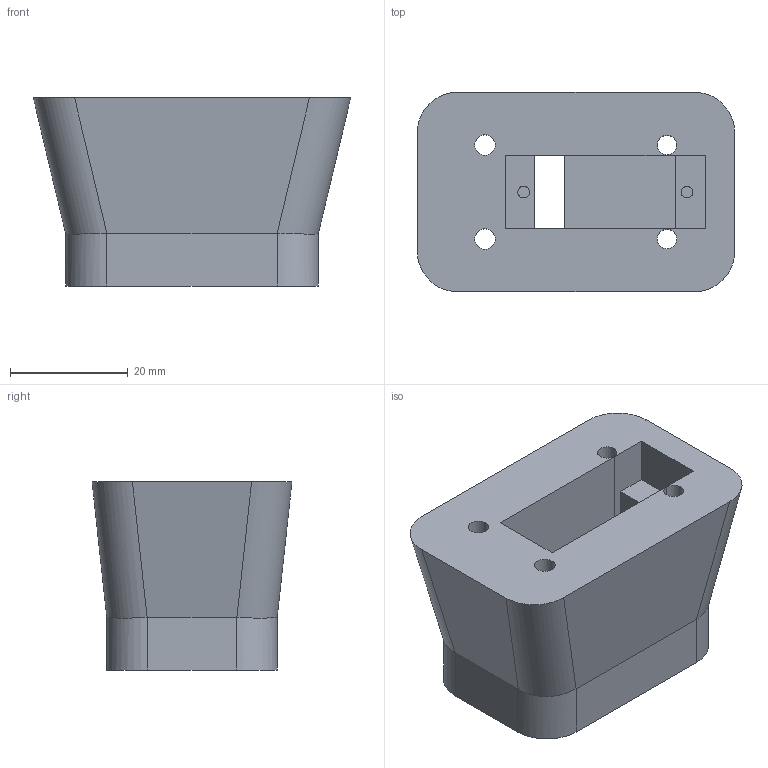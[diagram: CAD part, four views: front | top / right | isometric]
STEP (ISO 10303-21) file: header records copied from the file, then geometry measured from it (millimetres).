
FILE_DESCRIPTION(/* description */ ('STEP AP242 Edition 2','CAx-IF Rec.Pracs.---Representation and Presentation of Product Manufacturing Information (PMI)---4.0---2014-10-13','CAx-IF Rec.Pracs.---3D Tessellated Geometry---0.4---2014-09-14','2;1','CAx-IF Rec.Pracs.---User Defined Attributes---1.5---2016-08-15'),/* implementation_level */ '2;1');
FILE_NAME(/* name */ 'e530e90c-0d97-4b27-93aa-c38af6ac5da3',/* time_stamp */ '2026-09-28T10:12:44Z',/* author */ (''),/* organization */ (''),/* preprocessor_version */ 'ST-DEVELOPER v20',/* originating_system */ 'ONSHAPE BY PTC INC, 1.221',/* authorisation */ ' ');
FILE_SCHEMA (('AP242_MANAGED_MODEL_BASED_3D_ENGINEERING_MIM_LF { 1 0 10303 442 3 1 4 }'));
Length unit declared in the file: metre
Products named in the file (1): gripper_base_plate v1:1__Körper1
Bounding box: 54 x 34 x 32 mm (x, y, z)
Surface area: 11353.4 mm2 (no closed solid volume)
Topology: 0 solids, 1 shells, 50 faces, 140 edges, 92 vertices
Faces by surface type: plane 32, cylinder 18
Full cylindrical faces by diameter (mm): 2 x2, 3.3 x2, 3.5 x2
Entity records: 1654 total; most frequent: CARTESIAN_POINT 355, ORIENTED_EDGE 264, DIRECTION 244, EDGE_CURVE 134, LINE 94, VECTOR 94, VERTEX_POINT 92, AXIS2_PLACEMENT_3D 75
